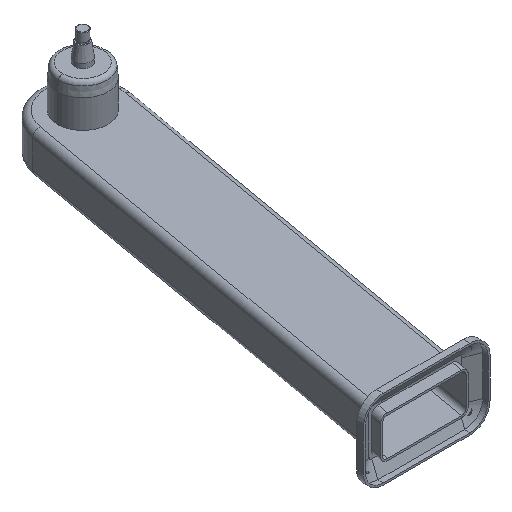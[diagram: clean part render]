
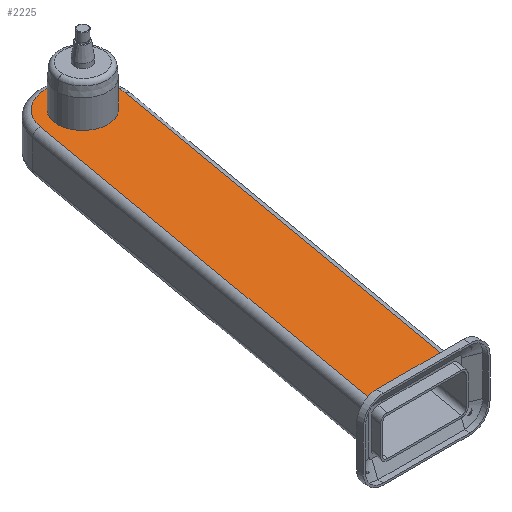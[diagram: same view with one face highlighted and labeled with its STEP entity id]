
A CAD part, isometric view. The second image highlights one B-rep face of the part: STEP entity #2225.
In plain terms, the highlighted planar face has unit normal (0, 0, 1).
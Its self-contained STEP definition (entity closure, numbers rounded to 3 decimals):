
#16 = CARTESIAN_POINT ( 'NONE',  ( 0., 0., 31.25 ) ) ;
#41 = DIRECTION ( 'NONE',  ( 0., 0., 1. ) ) ;
#49 = VECTOR ( 'NONE', #2938, 1000. ) ;
#124 = AXIS2_PLACEMENT_3D ( 'NONE', #2701, #1713, #201 ) ;
#143 = LINE ( 'NONE', #2180, #49 ) ;
#147 = EDGE_CURVE ( 'NONE', #1125, #718, #2762, .T. ) ;
#152 = CARTESIAN_POINT ( 'NONE',  ( 0., 0., 31.25 ) ) ;
#167 = ORIENTED_EDGE ( 'NONE', *, *, #2752, .T. ) ;
#201 = DIRECTION ( 'NONE',  ( 1., 0., 0. ) ) ;
#285 = DIRECTION ( 'NONE',  ( 1., 0., 0. ) ) ;
#400 = DIRECTION ( 'NONE',  ( 1., 0., 0. ) ) ;
#401 = CARTESIAN_POINT ( 'NONE',  ( 54.164, -9.551, 31.25 ) ) ;
#467 = EDGE_CURVE ( 'NONE', #1174, #1125, #3009, .T. ) ;
#492 = VERTEX_POINT ( 'NONE', #912 ) ;
#523 = VECTOR ( 'NONE', #2804, 1000. ) ;
#538 = EDGE_CURVE ( 'NONE', #1348, #492, #143, .T. ) ;
#614 = FACE_OUTER_BOUND ( 'NONE', #1998, .T. ) ;
#628 = ORIENTED_EDGE ( 'NONE', *, *, #538, .T. ) ;
#718 = VERTEX_POINT ( 'NONE', #2957 ) ;
#850 = ORIENTED_EDGE ( 'NONE', *, *, #1791, .T. ) ;
#912 = CARTESIAN_POINT ( 'NONE',  ( -162.526, -605., 31.25 ) ) ;
#1034 = CARTESIAN_POINT ( 'NONE',  ( 0., -605., 31.25 ) ) ;
#1088 = AXIS2_PLACEMENT_3D ( 'NONE', #1099, #2867, #1355 ) ;
#1099 = CARTESIAN_POINT ( 'NONE',  ( 0., 0., 31.25 ) ) ;
#1103 = VERTEX_POINT ( 'NONE', #2913 ) ;
#1125 = VERTEX_POINT ( 'NONE', #401 ) ;
#1174 = VERTEX_POINT ( 'NONE', #1283 ) ;
#1250 = CARTESIAN_POINT ( 'NONE',  ( -38., 0., 31.25 ) ) ;
#1283 = CARTESIAN_POINT ( 'NONE',  ( -50.829, -605., 31.25 ) ) ;
#1348 = VERTEX_POINT ( 'NONE', #2648 ) ;
#1355 = DIRECTION ( 'NONE',  ( 1., 0., 0. ) ) ;
#1363 = EDGE_LOOP ( 'NONE', ( #2922, #2255 ) ) ;
#1568 = CARTESIAN_POINT ( 'NONE',  ( 0., 0., 31.25 ) ) ;
#1576 = DIRECTION ( 'NONE',  ( 0.174, 0.985, 0. ) ) ;
#1617 = ORIENTED_EDGE ( 'NONE', *, *, #467, .T. ) ;
#1641 = VECTOR ( 'NONE', #1576, 1000. ) ;
#1671 = EDGE_CURVE ( 'NONE', #2328, #1103, #2357, .T. ) ;
#1691 = AXIS2_PLACEMENT_3D ( 'NONE', #16, #1790, #285 ) ;
#1713 = DIRECTION ( 'NONE',  ( 0., 0., 1. ) ) ;
#1790 = DIRECTION ( 'NONE',  ( 0., 0., 1. ) ) ;
#1791 = EDGE_CURVE ( 'NONE', #718, #1348, #1975, .T. ) ;
#1823 = DIRECTION ( 'NONE',  ( 1., 0., 0. ) ) ;
#1836 = CARTESIAN_POINT ( 'NONE',  ( 54.164, -9.551, 31.25 ) ) ;
#1894 = ORIENTED_EDGE ( 'NONE', *, *, #147, .T. ) ;
#1913 = DIRECTION ( 'NONE',  ( 0., 0., 1. ) ) ;
#1975 = CIRCLE ( 'NONE', #2335, 55. ) ;
#1998 = EDGE_LOOP ( 'NONE', ( #1617, #1894, #850, #628, #167 ) ) ;
#2180 = CARTESIAN_POINT ( 'NONE',  ( -166.359, -626.736, 31.25 ) ) ;
#2225 = ADVANCED_FACE ( 'NONE', ( #614, #2630 ), #3242, .T. ) ;
#2255 = ORIENTED_EDGE ( 'NONE', *, *, #1671, .F. ) ;
#2328 = VERTEX_POINT ( 'NONE', #1250 ) ;
#2335 = AXIS2_PLACEMENT_3D ( 'NONE', #152, #1913, #400 ) ;
#2357 = CIRCLE ( 'NONE', #2917, 38. ) ;
#2378 = LINE ( 'NONE', #1034, #523 ) ;
#2630 = FACE_BOUND ( 'NONE', #1363, .T. ) ;
#2648 = CARTESIAN_POINT ( 'NONE',  ( -54.164, 9.551, 31.25 ) ) ;
#2701 = CARTESIAN_POINT ( 'NONE',  ( 0., 0., 31.25 ) ) ;
#2752 = EDGE_CURVE ( 'NONE', #492, #1174, #2378, .T. ) ;
#2756 = EDGE_CURVE ( 'NONE', #1103, #2328, #3067, .T. ) ;
#2762 = CIRCLE ( 'NONE', #1088, 55. ) ;
#2804 = DIRECTION ( 'NONE',  ( 1., 0., 0. ) ) ;
#2867 = DIRECTION ( 'NONE',  ( 0., 0., 1. ) ) ;
#2913 = CARTESIAN_POINT ( 'NONE',  ( 38., 0., 31.25 ) ) ;
#2917 = AXIS2_PLACEMENT_3D ( 'NONE', #1568, #41, #1823 ) ;
#2922 = ORIENTED_EDGE ( 'NONE', *, *, #2756, .F. ) ;
#2938 = DIRECTION ( 'NONE',  ( -0.174, -0.985, 0. ) ) ;
#2957 = CARTESIAN_POINT ( 'NONE',  ( 55., 0., 31.25 ) ) ;
#3009 = LINE ( 'NONE', #1836, #1641 ) ;
#3067 = CIRCLE ( 'NONE', #1691, 38. ) ;
#3242 = PLANE ( 'NONE',  #124 ) ;
